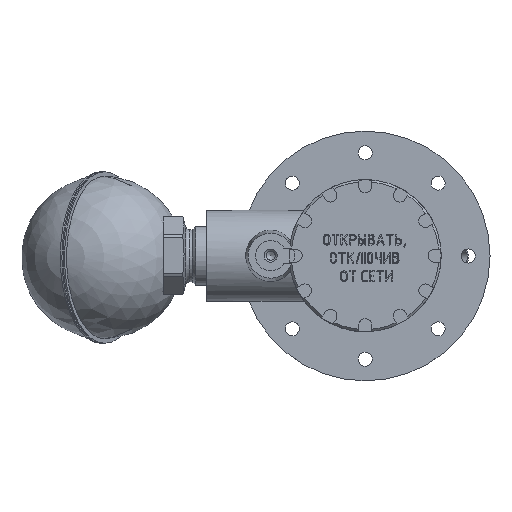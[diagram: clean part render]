
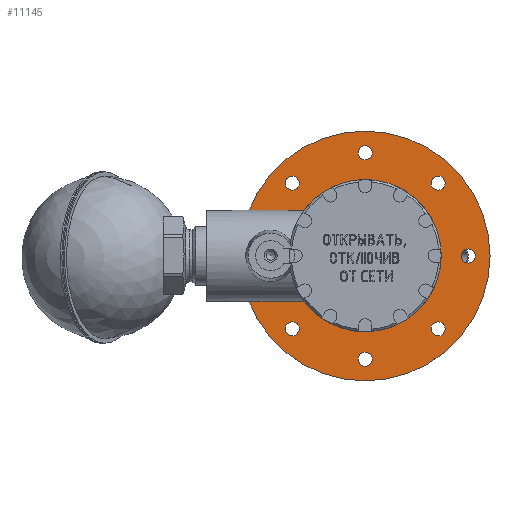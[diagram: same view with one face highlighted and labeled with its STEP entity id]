
A CAD part, top view. The second image highlights one B-rep face of the part: STEP entity #11145.
In plain terms, the highlighted planar face has unit normal (0, 0, 1).
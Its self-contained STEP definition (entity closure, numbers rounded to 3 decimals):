
#333=CIRCLE('',#11759,3.25);
#335=CIRCLE('',#11762,3.25);
#337=CIRCLE('',#11765,3.25);
#339=CIRCLE('',#11768,3.25);
#341=CIRCLE('',#11771,3.25);
#343=CIRCLE('',#11774,3.25);
#345=CIRCLE('',#11777,3.25);
#347=CIRCLE('',#11780,3.25);
#349=CIRCLE('',#11783,10.247);
#351=CIRCLE('',#11787,57.5);
#533=FACE_BOUND('',#2116,.T.);
#534=FACE_BOUND('',#2117,.T.);
#535=FACE_BOUND('',#2118,.T.);
#536=FACE_BOUND('',#2119,.T.);
#537=FACE_BOUND('',#2120,.T.);
#538=FACE_BOUND('',#2121,.T.);
#539=FACE_BOUND('',#2122,.T.);
#540=FACE_BOUND('',#2123,.T.);
#541=FACE_BOUND('',#2124,.T.);
#1374=FACE_OUTER_BOUND('',#2115,.T.);
#2115=EDGE_LOOP('',(#9931));
#2116=EDGE_LOOP('',(#9932));
#2117=EDGE_LOOP('',(#9933));
#2118=EDGE_LOOP('',(#9934));
#2119=EDGE_LOOP('',(#9935));
#2120=EDGE_LOOP('',(#9936));
#2121=EDGE_LOOP('',(#9937));
#2122=EDGE_LOOP('',(#9938));
#2123=EDGE_LOOP('',(#9939));
#2124=EDGE_LOOP('',(#9940));
#5395=VERTEX_POINT('',#19800);
#5397=VERTEX_POINT('',#19805);
#5399=VERTEX_POINT('',#19810);
#5401=VERTEX_POINT('',#19815);
#5403=VERTEX_POINT('',#19820);
#5405=VERTEX_POINT('',#19825);
#5407=VERTEX_POINT('',#19830);
#5409=VERTEX_POINT('',#19835);
#5411=VERTEX_POINT('',#19840);
#5413=VERTEX_POINT('',#19846);
#6939=EDGE_CURVE('',#5395,#5395,#333,.T.);
#6941=EDGE_CURVE('',#5397,#5397,#335,.T.);
#6943=EDGE_CURVE('',#5399,#5399,#337,.T.);
#6945=EDGE_CURVE('',#5401,#5401,#339,.T.);
#6947=EDGE_CURVE('',#5403,#5403,#341,.T.);
#6949=EDGE_CURVE('',#5405,#5405,#343,.T.);
#6951=EDGE_CURVE('',#5407,#5407,#345,.T.);
#6953=EDGE_CURVE('',#5409,#5409,#347,.T.);
#6955=EDGE_CURVE('',#5411,#5411,#349,.T.);
#6957=EDGE_CURVE('',#5413,#5413,#351,.T.);
#9931=ORIENTED_EDGE('',*,*,#6957,.F.);
#9932=ORIENTED_EDGE('',*,*,#6939,.T.);
#9933=ORIENTED_EDGE('',*,*,#6941,.T.);
#9934=ORIENTED_EDGE('',*,*,#6943,.T.);
#9935=ORIENTED_EDGE('',*,*,#6945,.T.);
#9936=ORIENTED_EDGE('',*,*,#6947,.T.);
#9937=ORIENTED_EDGE('',*,*,#6949,.T.);
#9938=ORIENTED_EDGE('',*,*,#6951,.T.);
#9939=ORIENTED_EDGE('',*,*,#6953,.T.);
#9940=ORIENTED_EDGE('',*,*,#6955,.F.);
#10489=PLANE('',#11786);
#11145=ADVANCED_FACE('',(#1374,#533,#534,#535,#536,#537,#538,#539,#540,
#541),#10489,.T.);
#11759=AXIS2_PLACEMENT_3D('',#19801,#13778,#13779);
#11762=AXIS2_PLACEMENT_3D('',#19806,#13784,#13785);
#11765=AXIS2_PLACEMENT_3D('',#19811,#13790,#13791);
#11768=AXIS2_PLACEMENT_3D('',#19816,#13796,#13797);
#11771=AXIS2_PLACEMENT_3D('',#19821,#13802,#13803);
#11774=AXIS2_PLACEMENT_3D('',#19826,#13808,#13809);
#11777=AXIS2_PLACEMENT_3D('',#19831,#13814,#13815);
#11780=AXIS2_PLACEMENT_3D('',#19836,#13820,#13821);
#11783=AXIS2_PLACEMENT_3D('',#19841,#13826,#13827);
#11786=AXIS2_PLACEMENT_3D('',#19845,#13832,#13833);
#11787=AXIS2_PLACEMENT_3D('',#19847,#13834,#13835);
#13778=DIRECTION('center_axis',(0.,0.,-1.));
#13779=DIRECTION('ref_axis',(-0.707,0.707,0.));
#13784=DIRECTION('center_axis',(0.,0.,-1.));
#13785=DIRECTION('ref_axis',(0.,1.,0.));
#13790=DIRECTION('center_axis',(0.,0.,-1.));
#13791=DIRECTION('ref_axis',(0.707,0.707,0.));
#13796=DIRECTION('center_axis',(0.,0.,-1.));
#13797=DIRECTION('ref_axis',(1.,0.,0.));
#13802=DIRECTION('center_axis',(0.,0.,-1.));
#13803=DIRECTION('ref_axis',(0.707,-0.707,0.));
#13808=DIRECTION('center_axis',(0.,0.,-1.));
#13809=DIRECTION('ref_axis',(0.,-1.,0.));
#13814=DIRECTION('center_axis',(0.,0.,-1.));
#13815=DIRECTION('ref_axis',(-0.707,-0.707,0.));
#13820=DIRECTION('center_axis',(0.,0.,-1.));
#13821=DIRECTION('ref_axis',(-1.,0.,0.));
#13826=DIRECTION('center_axis',(0.,0.,1.));
#13827=DIRECTION('ref_axis',(0.,-1.,0.));
#13832=DIRECTION('center_axis',(0.,0.,1.));
#13833=DIRECTION('ref_axis',(1.,0.,0.));
#13834=DIRECTION('center_axis',(0.,0.,-1.));
#13835=DIRECTION('ref_axis',(-1.,0.,0.));
#19800=CARTESIAN_POINT('',(-31.289,31.289,-70.5));
#19801=CARTESIAN_POINT('Origin',(-33.588,33.588,-70.5));
#19805=CARTESIAN_POINT('',(0.,44.25,-70.5));
#19806=CARTESIAN_POINT('Origin',(0.,47.5,-70.5));
#19810=CARTESIAN_POINT('',(31.289,31.289,-70.5));
#19811=CARTESIAN_POINT('Origin',(33.588,33.588,-70.5));
#19815=CARTESIAN_POINT('',(44.25,0.,-70.5));
#19816=CARTESIAN_POINT('Origin',(47.5,0.,-70.5));
#19820=CARTESIAN_POINT('',(31.289,-31.289,-70.5));
#19821=CARTESIAN_POINT('Origin',(33.588,-33.588,-70.5));
#19825=CARTESIAN_POINT('',(0.,-44.25,-70.5));
#19826=CARTESIAN_POINT('Origin',(0.,-47.5,-70.5));
#19830=CARTESIAN_POINT('',(-31.289,-31.289,-70.5));
#19831=CARTESIAN_POINT('Origin',(-33.588,-33.588,-70.5));
#19835=CARTESIAN_POINT('',(-44.25,0.,-70.5));
#19836=CARTESIAN_POINT('Origin',(-47.5,0.,-70.5));
#19840=CARTESIAN_POINT('',(0.,10.247,-70.5));
#19841=CARTESIAN_POINT('Origin',(0.,0.,-70.5));
#19845=CARTESIAN_POINT('Origin',(-57.5,0.,-70.5));
#19846=CARTESIAN_POINT('',(-57.5,0.,-70.5));
#19847=CARTESIAN_POINT('Origin',(0.,0.,-70.5));
